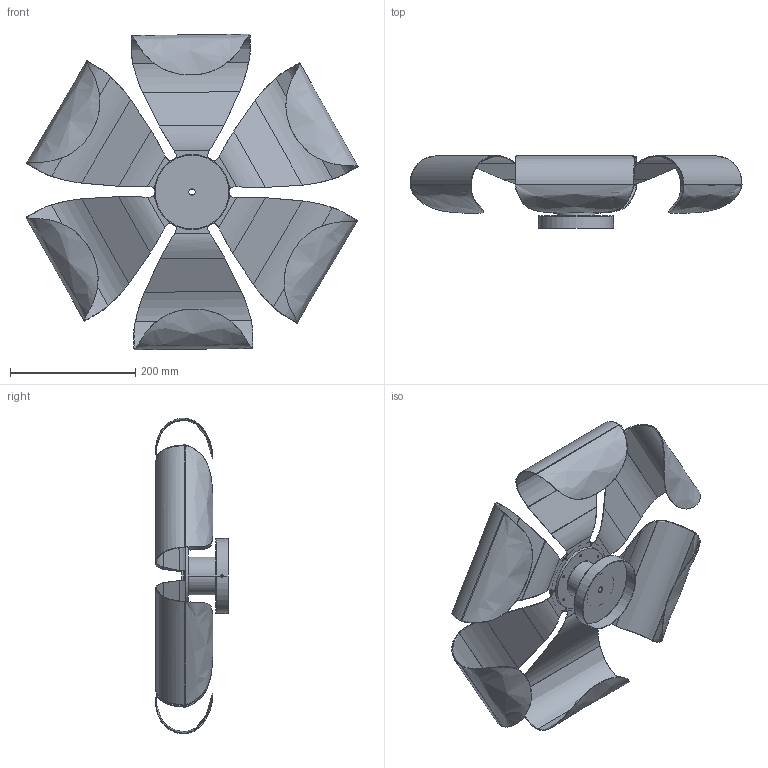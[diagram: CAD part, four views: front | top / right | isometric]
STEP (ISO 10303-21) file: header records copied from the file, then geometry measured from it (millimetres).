
FILE_DESCRIPTION (( 'STEP AP203' ), '1' );
FILE_NAME ('RITA_A1348_E27.STEP', '2025-09-04T15:37:02', ( '' ), ( '' ), 'SwSTEP 2.0', 'SolidWorks 2018', '' );
FILE_SCHEMA (( 'CONFIG_CONTROL_DESIGN' ));
Length unit declared in the file: millimetre
Products named in the file (1): RITA_A1348_E27
Bounding box: 530.13 x 115.67 x 504.11 mm (x, y, z)
Volume: 448374.3 mm3; surface area: 690043.6 mm2
Topology: 11 solids, 11 shells, 349 faces, 913 edges, 586 vertices
Faces by surface type: bspline 138, plane 106, cylinder 103, torus 2
Entity records: 16540 total; most frequent: CARTESIAN_POINT 9115, ORIENTED_EDGE 1826, DIRECTION 977, EDGE_CURVE 913, VERTEX_POINT 586, B_SPLINE_CURVE_WITH_KNOTS 544, EDGE_LOOP 415, AXIS2_PLACEMENT_3D 396
